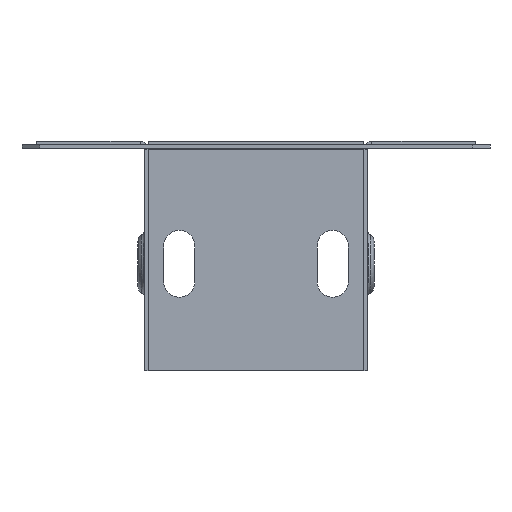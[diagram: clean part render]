
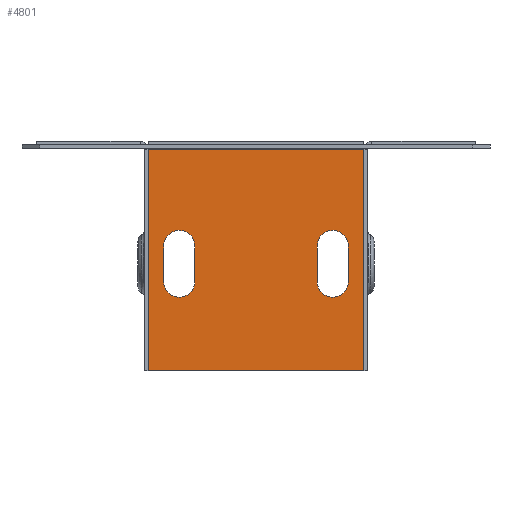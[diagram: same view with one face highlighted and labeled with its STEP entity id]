
A CAD part, left-side view. The second image highlights one B-rep face of the part: STEP entity #4801.
In plain terms, the highlighted planar face has unit normal (-1, 0, 0) as drawn and (0, 1, 0) by its records, which use the part's own axes.
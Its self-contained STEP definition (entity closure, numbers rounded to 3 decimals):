
#54 = ORIENTED_EDGE ( 'NONE', *, *, #6087, .F. ) ;
#113 = VERTEX_POINT ( 'NONE', #1793 ) ;
#120 = LINE ( 'NONE', #2348, #5026 ) ;
#135 = CARTESIAN_POINT ( 'NONE',  ( 24.2, 0.8, 0. ) ) ;
#231 = AXIS2_PLACEMENT_3D ( 'NONE', #3558, #5024, #4940 ) ;
#250 = DIRECTION ( 'NONE',  ( 0., -1., 0. ) ) ;
#355 = ORIENTED_EDGE ( 'NONE', *, *, #6165, .T. ) ;
#357 = PLANE ( 'NONE',  #6186 ) ;
#408 = CARTESIAN_POINT ( 'NONE',  ( 20.7, 0.8, 31.5 ) ) ;
#423 = VERTEX_POINT ( 'NONE', #4672 ) ;
#520 = EDGE_LOOP ( 'NONE', ( #883, #875, #566, #355 ) ) ;
#566 = ORIENTED_EDGE ( 'NONE', *, *, #5989, .F. ) ;
#569 = DIRECTION ( 'NONE',  ( 0., 0., 1. ) ) ;
#707 = EDGE_CURVE ( 'NONE', #4810, #2049, #1364, .T. ) ;
#725 = LINE ( 'NONE', #1093, #5635 ) ;
#762 = CARTESIAN_POINT ( 'NONE',  ( 24.2, 0.8, 51.5 ) ) ;
#822 = LINE ( 'NONE', #762, #3311 ) ;
#851 = DIRECTION ( 'NONE',  ( 0., 0., -1. ) ) ;
#875 = ORIENTED_EDGE ( 'NONE', *, *, #4698, .F. ) ;
#881 = LINE ( 'NONE', #135, #5903 ) ;
#883 = ORIENTED_EDGE ( 'NONE', *, *, #5895, .T. ) ;
#896 = AXIS2_PLACEMENT_3D ( 'NONE', #4855, #4811, #4536 ) ;
#902 = VERTEX_POINT ( 'NONE', #5676 ) ;
#915 = VECTOR ( 'NONE', #2045, 1000. ) ;
#1002 = EDGE_CURVE ( 'NONE', #113, #4810, #2296, .T. ) ;
#1093 = CARTESIAN_POINT ( 'NONE',  ( 20.7, 0.8, 31.5 ) ) ;
#1273 = EDGE_CURVE ( 'NONE', #2739, #113, #4817, .T. ) ;
#1280 = LINE ( 'NONE', #3254, #5857 ) ;
#1364 = CIRCLE ( 'NONE', #231, 3.5 ) ;
#1430 = AXIS2_PLACEMENT_3D ( 'NONE', #4910, #4889, #4457 ) ;
#1507 = FACE_BOUND ( 'NONE', #2852, .T. ) ;
#1699 = CARTESIAN_POINT ( 'NONE',  ( -24.2, 0.8, 51.5 ) ) ;
#1793 = CARTESIAN_POINT ( 'NONE',  ( 13.7, 0.8, 31.5 ) ) ;
#1818 = CARTESIAN_POINT ( 'NONE',  ( 24.2, 0.8, 0. ) ) ;
#1951 = VERTEX_POINT ( 'NONE', #5872 ) ;
#2045 = DIRECTION ( 'NONE',  ( 0., 0., 1. ) ) ;
#2049 = VERTEX_POINT ( 'NONE', #408 ) ;
#2144 = CARTESIAN_POINT ( 'NONE',  ( -13.7, 0.8, 31.5 ) ) ;
#2202 = DIRECTION ( 'NONE',  ( 0., 0., 1. ) ) ;
#2264 = VERTEX_POINT ( 'NONE', #3038 ) ;
#2285 = DIRECTION ( 'NONE',  ( 0., 1., 0. ) ) ;
#2296 = CIRCLE ( 'NONE', #5613, 3.5 ) ;
#2301 = EDGE_LOOP ( 'NONE', ( #54, #6188, #6259, #5894, #6250 ) ) ;
#2311 = CARTESIAN_POINT ( 'NONE',  ( 17.2, 0.8, 31.5 ) ) ;
#2348 = CARTESIAN_POINT ( 'NONE',  ( 24.2, 0.8, 1.8 ) ) ;
#2402 = AXIS2_PLACEMENT_3D ( 'NONE', #3218, #250, #3712 ) ;
#2477 = AXIS2_PLACEMENT_3D ( 'NONE', #5191, #5169, #5150 ) ;
#2511 = VECTOR ( 'NONE', #569, 1000. ) ;
#2673 = LINE ( 'NONE', #4513, #2511 ) ;
#2697 = VERTEX_POINT ( 'NONE', #4788 ) ;
#2739 = VERTEX_POINT ( 'NONE', #3090 ) ;
#2826 = CARTESIAN_POINT ( 'NONE',  ( 17.2, 0.8, 35. ) ) ;
#2844 = FACE_BOUND ( 'NONE', #2301, .T. ) ;
#2852 = EDGE_LOOP ( 'NONE', ( #6192, #6049, #5967, #5830, #5696 ) ) ;
#2861 = VERTEX_POINT ( 'NONE', #1699 ) ;
#2862 = DIRECTION ( 'NONE',  ( -1., 0., 0. ) ) ;
#2921 = EDGE_CURVE ( 'NONE', #1951, #2697, #3486, .T. ) ;
#3000 = CIRCLE ( 'NONE', #1430, 3.5 ) ;
#3038 = CARTESIAN_POINT ( 'NONE',  ( 24.2, 0.8, 51.5 ) ) ;
#3090 = CARTESIAN_POINT ( 'NONE',  ( 13.7, 0.8, 23.5 ) ) ;
#3218 = CARTESIAN_POINT ( 'NONE',  ( -17.2, 0.8, 31.5 ) ) ;
#3237 = EDGE_CURVE ( 'NONE', #2697, #3748, #3557, .T. ) ;
#3249 = DIRECTION ( 'NONE',  ( -1., 0., 0. ) ) ;
#3254 = CARTESIAN_POINT ( 'NONE',  ( -20.7, 0.8, 31.5 ) ) ;
#3311 = VECTOR ( 'NONE', #3249, 1000. ) ;
#3413 = CARTESIAN_POINT ( 'NONE',  ( -13.7, 0.8, 31.5 ) ) ;
#3486 = CIRCLE ( 'NONE', #2477, 3.5 ) ;
#3540 = VECTOR ( 'NONE', #5270, 1000. ) ;
#3557 = LINE ( 'NONE', #2144, #915 ) ;
#3558 = CARTESIAN_POINT ( 'NONE',  ( 17.2, 0.8, 31.5 ) ) ;
#3704 = EDGE_CURVE ( 'NONE', #4286, #3978, #5280, .T. ) ;
#3712 = DIRECTION ( 'NONE',  ( 0., 0., 1. ) ) ;
#3748 = VERTEX_POINT ( 'NONE', #3413 ) ;
#3814 = DIRECTION ( 'NONE',  ( 0., -1., 0. ) ) ;
#3836 = DIRECTION ( 'NONE',  ( 0., 0., -1. ) ) ;
#3976 = CIRCLE ( 'NONE', #2402, 3.5 ) ;
#3978 = VERTEX_POINT ( 'NONE', #5287 ) ;
#3990 = VERTEX_POINT ( 'NONE', #4826 ) ;
#4108 = EDGE_CURVE ( 'NONE', #3978, #1951, #1280, .T. ) ;
#4256 = EDGE_CURVE ( 'NONE', #902, #2739, #3000, .T. ) ;
#4286 = VERTEX_POINT ( 'NONE', #5414 ) ;
#4457 = DIRECTION ( 'NONE',  ( 0., 0., 1. ) ) ;
#4513 = CARTESIAN_POINT ( 'NONE',  ( -24.2, 0.8, 0. ) ) ;
#4536 = DIRECTION ( 'NONE',  ( 0., 0., 1. ) ) ;
#4672 = CARTESIAN_POINT ( 'NONE',  ( -24.2, 0.8, 1.8 ) ) ;
#4698 = EDGE_CURVE ( 'NONE', #2264, #2861, #822, .T. ) ;
#4788 = CARTESIAN_POINT ( 'NONE',  ( -13.7, 0.8, 23.5 ) ) ;
#4801 = ADVANCED_FACE ( 'NONE', ( #5419, #2844, #1507 ), #357, .F. ) ;
#4810 = VERTEX_POINT ( 'NONE', #2826 ) ;
#4811 = DIRECTION ( 'NONE',  ( 0., -1., 0. ) ) ;
#4817 = LINE ( 'NONE', #5575, #3540 ) ;
#4826 = CARTESIAN_POINT ( 'NONE',  ( 24.2, 0.8, 1.8 ) ) ;
#4855 = CARTESIAN_POINT ( 'NONE',  ( -17.2, 0.8, 31.5 ) ) ;
#4889 = DIRECTION ( 'NONE',  ( 0., 1., 0. ) ) ;
#4910 = CARTESIAN_POINT ( 'NONE',  ( 17.2, 0.8, 23.5 ) ) ;
#4940 = DIRECTION ( 'NONE',  ( 0., 0., 1. ) ) ;
#5024 = DIRECTION ( 'NONE',  ( 0., 1., 0. ) ) ;
#5026 = VECTOR ( 'NONE', #2862, 1000. ) ;
#5041 = DIRECTION ( 'NONE',  ( 0., 0., 1. ) ) ;
#5150 = DIRECTION ( 'NONE',  ( 0., 0., 1. ) ) ;
#5169 = DIRECTION ( 'NONE',  ( 0., -1., 0. ) ) ;
#5191 = CARTESIAN_POINT ( 'NONE',  ( -17.2, 0.8, 23.5 ) ) ;
#5270 = DIRECTION ( 'NONE',  ( 0., 0., 1. ) ) ;
#5280 = CIRCLE ( 'NONE', #896, 3.5 ) ;
#5287 = CARTESIAN_POINT ( 'NONE',  ( -20.7, 0.8, 31.5 ) ) ;
#5348 = EDGE_CURVE ( 'NONE', #3748, #4286, #3976, .T. ) ;
#5414 = CARTESIAN_POINT ( 'NONE',  ( -17.2, 0.8, 35. ) ) ;
#5419 = FACE_OUTER_BOUND ( 'NONE', #520, .T. ) ;
#5508 = DIRECTION ( 'NONE',  ( 0., 0., -1. ) ) ;
#5575 = CARTESIAN_POINT ( 'NONE',  ( 13.7, 0.8, 31.5 ) ) ;
#5613 = AXIS2_PLACEMENT_3D ( 'NONE', #2311, #2285, #2202 ) ;
#5635 = VECTOR ( 'NONE', #5508, 1000. ) ;
#5676 = CARTESIAN_POINT ( 'NONE',  ( 20.7, 0.8, 23.5 ) ) ;
#5696 = ORIENTED_EDGE ( 'NONE', *, *, #3237, .T. ) ;
#5830 = ORIENTED_EDGE ( 'NONE', *, *, #2921, .T. ) ;
#5857 = VECTOR ( 'NONE', #3836, 1000. ) ;
#5872 = CARTESIAN_POINT ( 'NONE',  ( -20.7, 0.8, 23.5 ) ) ;
#5894 = ORIENTED_EDGE ( 'NONE', *, *, #1273, .F. ) ;
#5895 = EDGE_CURVE ( 'NONE', #423, #2861, #2673, .T. ) ;
#5903 = VECTOR ( 'NONE', #5041, 1000. ) ;
#5967 = ORIENTED_EDGE ( 'NONE', *, *, #4108, .T. ) ;
#5989 = EDGE_CURVE ( 'NONE', #3990, #2264, #881, .T. ) ;
#6049 = ORIENTED_EDGE ( 'NONE', *, *, #3704, .T. ) ;
#6087 = EDGE_CURVE ( 'NONE', #2049, #902, #725, .T. ) ;
#6165 = EDGE_CURVE ( 'NONE', #3990, #423, #120, .T. ) ;
#6186 = AXIS2_PLACEMENT_3D ( 'NONE', #1818, #3814, #851 ) ;
#6188 = ORIENTED_EDGE ( 'NONE', *, *, #707, .F. ) ;
#6192 = ORIENTED_EDGE ( 'NONE', *, *, #5348, .T. ) ;
#6250 = ORIENTED_EDGE ( 'NONE', *, *, #4256, .F. ) ;
#6259 = ORIENTED_EDGE ( 'NONE', *, *, #1002, .F. ) ;
